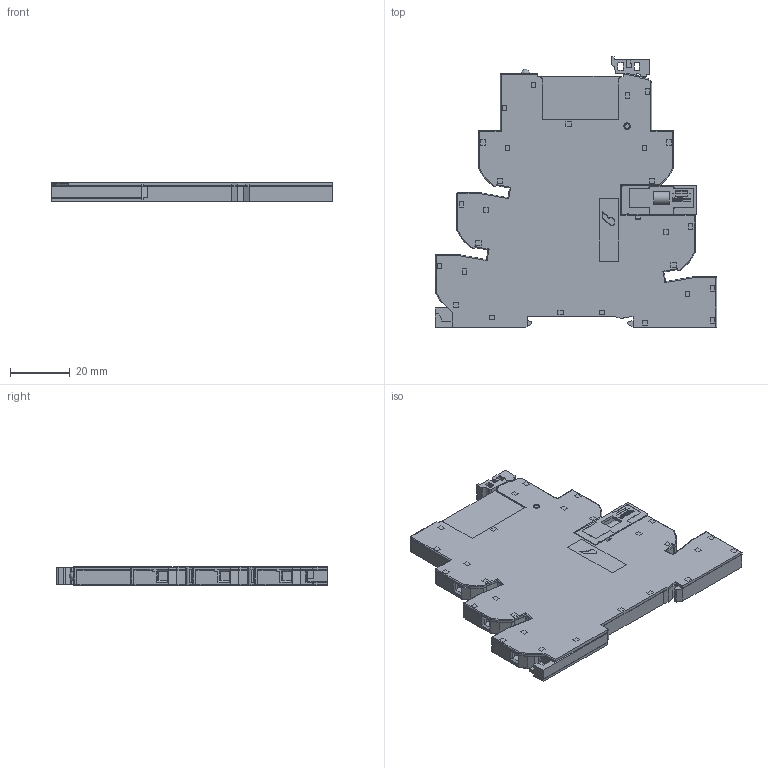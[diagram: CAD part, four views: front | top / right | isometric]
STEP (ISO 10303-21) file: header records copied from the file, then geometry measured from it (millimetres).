
FILE_DESCRIPTION(('STEP AP214'),'2;1');
FILE_NAME('3941=3451+9364+09363.stp','2010-10-02T09:51:39',(''),(''),'2007.1.106','THINKDESIGN','');
FILE_SCHEMA(('AUTOMOTIVE_DESIGN'));
Products named in the file (1): None
Bounding box: 94.25 x 90.7 x 6.2 mm (x, y, z)
Surface area: 29113.4 mm2 (no closed solid volume)
Topology: 0 solids, 0 shells, 1391 faces, 9463 edges, 9444 vertices
Faces by surface type: plane 1094, cylinder 212, bspline 85
Full cylindrical faces by diameter (mm): 2 x2, 2.2 x2, 3 x1, 3.9 x6, 4.4 x1
Entity records: 94569 total; most frequent: CARTESIAN_POINT 29363, DIRECTION 11527, COMPOSITE_CURVE_SEGMENT 9447, TRIMMED_CURVE 8556, VECTOR 8201, LINE 8201, AXIS2_PLACEMENT_3D 1663, OUTER_BOUNDARY_CURVE 1391
